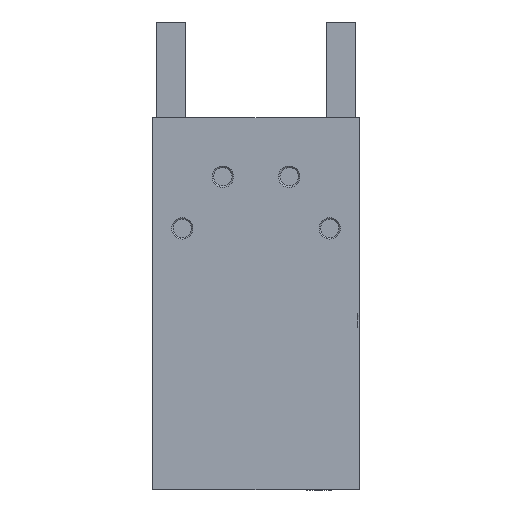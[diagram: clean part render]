
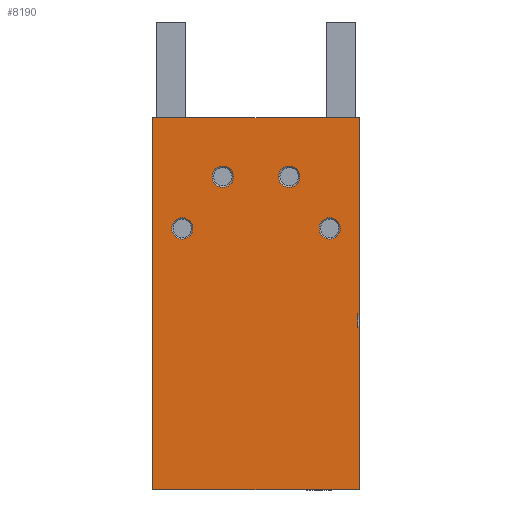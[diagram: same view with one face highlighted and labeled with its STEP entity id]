
A CAD part, front view. The second image highlights one B-rep face of the part: STEP entity #8190.
In plain terms, the highlighted planar face has unit normal (0, -1, 0).
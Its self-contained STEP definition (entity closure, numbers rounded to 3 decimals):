
#730 = EDGE_CURVE ( 'NONE', #10395, #9305, #1475, .T. ) ;
#1475 = LINE ( 'NONE', #10574, #1477 ) ;
#1477 = VECTOR ( 'NONE', #10573, 1000. ) ;
#1723 = CIRCLE ( 'NONE', #4190, 1.45 ) ;
#1726 = CIRCLE ( 'NONE', #4191, 1.45 ) ;
#1728 = CIRCLE ( 'NONE', #4192, 1.45 ) ;
#1736 = CIRCLE ( 'NONE', #4195, 1.45 ) ;
#1950 = LINE ( 'NONE', #11096, #1952 ) ;
#1952 = VECTOR ( 'NONE', #11093, 1000. ) ;
#2187 = FACE_BOUND ( 'NONE', #4476, .T. ) ;
#2188 = FACE_BOUND ( 'NONE', #4475, .T. ) ;
#2189 = FACE_BOUND ( 'NONE', #4474, .T. ) ;
#2190 = FACE_BOUND ( 'NONE', #4473, .T. ) ;
#2191 = FACE_OUTER_BOUND ( 'NONE', #4472, .T. ) ;
#2370 = ORIENTED_EDGE ( 'NONE', *, *, #2909, .T. ) ;
#2371 = ORIENTED_EDGE ( 'NONE', *, *, #2906, .T. ) ;
#2372 = ORIENTED_EDGE ( 'NONE', *, *, #2913, .T. ) ;
#2373 = ORIENTED_EDGE ( 'NONE', *, *, #2894, .T. ) ;
#2374 = ORIENTED_EDGE ( 'NONE', *, *, #730, .T. ) ;
#2375 = ORIENTED_EDGE ( 'NONE', *, *, #3374, .T. ) ;
#2376 = ORIENTED_EDGE ( 'NONE', *, *, #2914, .T. ) ;
#2377 = ORIENTED_EDGE ( 'NONE', *, *, #2912, .T. ) ;
#2378 = ORIENTED_EDGE ( 'NONE', *, *, #2915, .T. ) ;
#2379 = ORIENTED_EDGE ( 'NONE', *, *, #3243, .T. ) ;
#2380 = ORIENTED_EDGE ( 'NONE', *, *, #2916, .T. ) ;
#2381 = ORIENTED_EDGE ( 'NONE', *, *, #3241, .T. ) ;
#2382 = ORIENTED_EDGE ( 'NONE', *, *, #2917, .T. ) ;
#2383 = ORIENTED_EDGE ( 'NONE', *, *, #3245, .T. ) ;
#2384 = ORIENTED_EDGE ( 'NONE', *, *, #2918, .T. ) ;
#2385 = ORIENTED_EDGE ( 'NONE', *, *, #3250, .T. ) ;
#2894 = EDGE_CURVE ( 'NONE', #9305, #9382, #5849, .T. ) ;
#2906 = EDGE_CURVE ( 'NONE', #9393, #9390, #5871, .T. ) ;
#2909 = EDGE_CURVE ( 'NONE', #9390, #9272, #5878, .T. ) ;
#2912 = EDGE_CURVE ( 'NONE', #9272, #9303, #5884, .T. ) ;
#2913 = EDGE_CURVE ( 'NONE', #9382, #9393, #5886, .T. ) ;
#2914 = EDGE_CURVE ( 'NONE', #9303, #9315, #5888, .T. ) ;
#2915 = EDGE_CURVE ( 'NONE', #9283, #9195, #5890, .T. ) ;
#2916 = EDGE_CURVE ( 'NONE', #9122, #9257, #5891, .T. ) ;
#2917 = EDGE_CURVE ( 'NONE', #9279, #9549, #5892, .T. ) ;
#2918 = EDGE_CURVE ( 'NONE', #8974, #9121, #5894, .T. ) ;
#3241 = EDGE_CURVE ( 'NONE', #9257, #9122, #1723, .T. ) ;
#3243 = EDGE_CURVE ( 'NONE', #9195, #9283, #1726, .T. ) ;
#3245 = EDGE_CURVE ( 'NONE', #9549, #9279, #1728, .T. ) ;
#3250 = EDGE_CURVE ( 'NONE', #9121, #8974, #1736, .T. ) ;
#3374 = EDGE_CURVE ( 'NONE', #9315, #10395, #1950, .T. ) ;
#4117 = AXIS2_PLACEMENT_3D ( 'NONE', #7953, #7949, #7926 ) ;
#4118 = AXIS2_PLACEMENT_3D ( 'NONE', #7920, #7887, #7883 ) ;
#4119 = AXIS2_PLACEMENT_3D ( 'NONE', #7877, #7874, #7869 ) ;
#4120 = AXIS2_PLACEMENT_3D ( 'NONE', #7834, #7828, #7825 ) ;
#4190 = AXIS2_PLACEMENT_3D ( 'NONE', #7777, #7776, #7775 ) ;
#4191 = AXIS2_PLACEMENT_3D ( 'NONE', #7771, #7770, #7769 ) ;
#4192 = AXIS2_PLACEMENT_3D ( 'NONE', #7765, #7764, #7763 ) ;
#4195 = AXIS2_PLACEMENT_3D ( 'NONE', #7750, #7749, #7748 ) ;
#4472 = EDGE_LOOP ( 'NONE', ( #2377, #2376, #2375, #2374, #2373, #2372, #2371, #2370 ) ) ;
#4473 = EDGE_LOOP ( 'NONE', ( #2379, #2378 ) ) ;
#4474 = EDGE_LOOP ( 'NONE', ( #2381, #2380 ) ) ;
#4475 = EDGE_LOOP ( 'NONE', ( #2383, #2382 ) ) ;
#4476 = EDGE_LOOP ( 'NONE', ( #2385, #2384 ) ) ;
#5849 = LINE ( 'NONE', #8461, #5851 ) ;
#5851 = VECTOR ( 'NONE', #8460, 1000. ) ;
#5871 = LINE ( 'NONE', #8076, #5873 ) ;
#5873 = VECTOR ( 'NONE', #8074, 1000. ) ;
#5878 = LINE ( 'NONE', #8053, #5879 ) ;
#5879 = VECTOR ( 'NONE', #8050, 1000. ) ;
#5884 = LINE ( 'NONE', #8024, #5885 ) ;
#5885 = VECTOR ( 'NONE', #8021, 1000. ) ;
#5886 = LINE ( 'NONE', #7991, #5887 ) ;
#5887 = VECTOR ( 'NONE', #7988, 1000. ) ;
#5888 = LINE ( 'NONE', #7959, #5889 ) ;
#5889 = VECTOR ( 'NONE', #7956, 1000. ) ;
#5890 = CIRCLE ( 'NONE', #4117, 1.45 ) ;
#5891 = CIRCLE ( 'NONE', #4118, 1.45 ) ;
#5892 = CIRCLE ( 'NONE', #4119, 1.45 ) ;
#5894 = CIRCLE ( 'NONE', #4120, 1.45 ) ;
#5931 = AXIS2_PLACEMENT_3D ( 'NONE', #11622, #11619, #11618 ) ;
#6646 = CARTESIAN_POINT ( 'NONE',  ( -1101.767, -685.399, 25.25 ) ) ;
#6657 = CARTESIAN_POINT ( 'NONE',  ( -1129.767, -685.399, 25.25 ) ) ;
#6691 = CARTESIAN_POINT ( 'NONE',  ( -1101.767, -685.399, -1.482 ) ) ;
#6961 = CARTESIAN_POINT ( 'NONE',  ( -1101.767, -685.399, -3.018 ) ) ;
#7006 = CARTESIAN_POINT ( 'NONE',  ( -1101.967, -685.399, -1.482 ) ) ;
#7015 = CARTESIAN_POINT ( 'NONE',  ( -1101.767, -685.399, -25.25 ) ) ;
#7039 = CARTESIAN_POINT ( 'NONE',  ( -1101.967, -685.399, -3.018 ) ) ;
#7065 = CARTESIAN_POINT ( 'NONE',  ( -1120.267, -685.399, 15.8 ) ) ;
#7748 = DIRECTION ( 'NONE',  ( 0., 0., -1. ) ) ;
#7749 = DIRECTION ( 'NONE',  ( 0., 1., 0. ) ) ;
#7750 = CARTESIAN_POINT ( 'NONE',  ( -1125.767, -685.399, 10.25 ) ) ;
#7763 = DIRECTION ( 'NONE',  ( 0., 0., -1. ) ) ;
#7764 = DIRECTION ( 'NONE',  ( 0., 1., 0. ) ) ;
#7765 = CARTESIAN_POINT ( 'NONE',  ( -1120.267, -685.399, 17.25 ) ) ;
#7769 = DIRECTION ( 'NONE',  ( 0., 0., -1. ) ) ;
#7770 = DIRECTION ( 'NONE',  ( 0., 1., 0. ) ) ;
#7771 = CARTESIAN_POINT ( 'NONE',  ( -1105.767, -685.399, 10.25 ) ) ;
#7775 = DIRECTION ( 'NONE',  ( 0., 0., -1. ) ) ;
#7776 = DIRECTION ( 'NONE',  ( 0., 1., 0. ) ) ;
#7777 = CARTESIAN_POINT ( 'NONE',  ( -1111.267, -685.399, 17.25 ) ) ;
#7825 = DIRECTION ( 'NONE',  ( 0., 0., -1. ) ) ;
#7828 = DIRECTION ( 'NONE',  ( 0., 1., 0. ) ) ;
#7834 = CARTESIAN_POINT ( 'NONE',  ( -1125.767, -685.399, 10.25 ) ) ;
#7869 = DIRECTION ( 'NONE',  ( 0., 0., -1. ) ) ;
#7874 = DIRECTION ( 'NONE',  ( 0., 1., 0. ) ) ;
#7877 = CARTESIAN_POINT ( 'NONE',  ( -1120.267, -685.399, 17.25 ) ) ;
#7883 = DIRECTION ( 'NONE',  ( 0., 0., -1. ) ) ;
#7887 = DIRECTION ( 'NONE',  ( 0., 1., 0. ) ) ;
#7920 = CARTESIAN_POINT ( 'NONE',  ( -1111.267, -685.399, 17.25 ) ) ;
#7926 = DIRECTION ( 'NONE',  ( 0., 0., -1. ) ) ;
#7949 = DIRECTION ( 'NONE',  ( 0., 1., 0. ) ) ;
#7953 = CARTESIAN_POINT ( 'NONE',  ( -1105.767, -685.399, 10.25 ) ) ;
#7956 = DIRECTION ( 'NONE',  ( 0., 0., 1. ) ) ;
#7959 = CARTESIAN_POINT ( 'NONE',  ( -1101.767, -685.399, 25.25 ) ) ;
#7988 = DIRECTION ( 'NONE',  ( 0., 0., 1. ) ) ;
#7991 = CARTESIAN_POINT ( 'NONE',  ( -1101.767, -685.399, 25.25 ) ) ;
#8021 = DIRECTION ( 'NONE',  ( 1., 0., 0. ) ) ;
#8024 = CARTESIAN_POINT ( 'NONE',  ( -1129.767, -685.399, -25.25 ) ) ;
#8050 = DIRECTION ( 'NONE',  ( 0., 0., -1. ) ) ;
#8053 = CARTESIAN_POINT ( 'NONE',  ( -1129.767, -685.399, 25.25 ) ) ;
#8074 = DIRECTION ( 'NONE',  ( -1., 0., 0. ) ) ;
#8076 = CARTESIAN_POINT ( 'NONE',  ( -1129.767, -685.399, 25.25 ) ) ;
#8190 = ADVANCED_FACE ( 'NONE', ( #2187, #2188, #2189, #2190, #2191 ), #11623, .T. ) ;
#8460 = DIRECTION ( 'NONE',  ( 1., 0., 0. ) ) ;
#8461 = CARTESIAN_POINT ( 'NONE',  ( -1101.867, -685.399, -1.482 ) ) ;
#8974 = VERTEX_POINT ( 'NONE', #11326 ) ;
#9121 = VERTEX_POINT ( 'NONE', #11143 ) ;
#9122 = VERTEX_POINT ( 'NONE', #11142 ) ;
#9195 = VERTEX_POINT ( 'NONE', #11059 ) ;
#9257 = VERTEX_POINT ( 'NONE', #10993 ) ;
#9272 = VERTEX_POINT ( 'NONE', #10975 ) ;
#9279 = VERTEX_POINT ( 'NONE', #10967 ) ;
#9283 = VERTEX_POINT ( 'NONE', #10962 ) ;
#9303 = VERTEX_POINT ( 'NONE', #7015 ) ;
#9305 = VERTEX_POINT ( 'NONE', #7006 ) ;
#9315 = VERTEX_POINT ( 'NONE', #6961 ) ;
#9382 = VERTEX_POINT ( 'NONE', #6691 ) ;
#9390 = VERTEX_POINT ( 'NONE', #6657 ) ;
#9393 = VERTEX_POINT ( 'NONE', #6646 ) ;
#9549 = VERTEX_POINT ( 'NONE', #7065 ) ;
#10395 = VERTEX_POINT ( 'NONE', #7039 ) ;
#10573 = DIRECTION ( 'NONE',  ( 0., 0., 1. ) ) ;
#10574 = CARTESIAN_POINT ( 'NONE',  ( -1101.967, -685.399, -2.25 ) ) ;
#10962 = CARTESIAN_POINT ( 'NONE',  ( -1105.767, -685.399, 11.7 ) ) ;
#10967 = CARTESIAN_POINT ( 'NONE',  ( -1120.267, -685.399, 18.7 ) ) ;
#10975 = CARTESIAN_POINT ( 'NONE',  ( -1129.767, -685.399, -25.25 ) ) ;
#10993 = CARTESIAN_POINT ( 'NONE',  ( -1111.267, -685.399, 15.8 ) ) ;
#11059 = CARTESIAN_POINT ( 'NONE',  ( -1105.767, -685.399, 8.8 ) ) ;
#11093 = DIRECTION ( 'NONE',  ( -1., 0., 0. ) ) ;
#11096 = CARTESIAN_POINT ( 'NONE',  ( -1101.867, -685.399, -3.018 ) ) ;
#11142 = CARTESIAN_POINT ( 'NONE',  ( -1111.267, -685.399, 18.7 ) ) ;
#11143 = CARTESIAN_POINT ( 'NONE',  ( -1125.767, -685.399, 8.8 ) ) ;
#11326 = CARTESIAN_POINT ( 'NONE',  ( -1125.767, -685.399, 11.7 ) ) ;
#11618 = DIRECTION ( 'NONE',  ( 0., 0., -1. ) ) ;
#11619 = DIRECTION ( 'NONE',  ( 0., -1., 0. ) ) ;
#11622 = CARTESIAN_POINT ( 'NONE',  ( -1129.767, -685.399, 25.25 ) ) ;
#11623 = PLANE ( 'NONE',  #5931 ) ;
